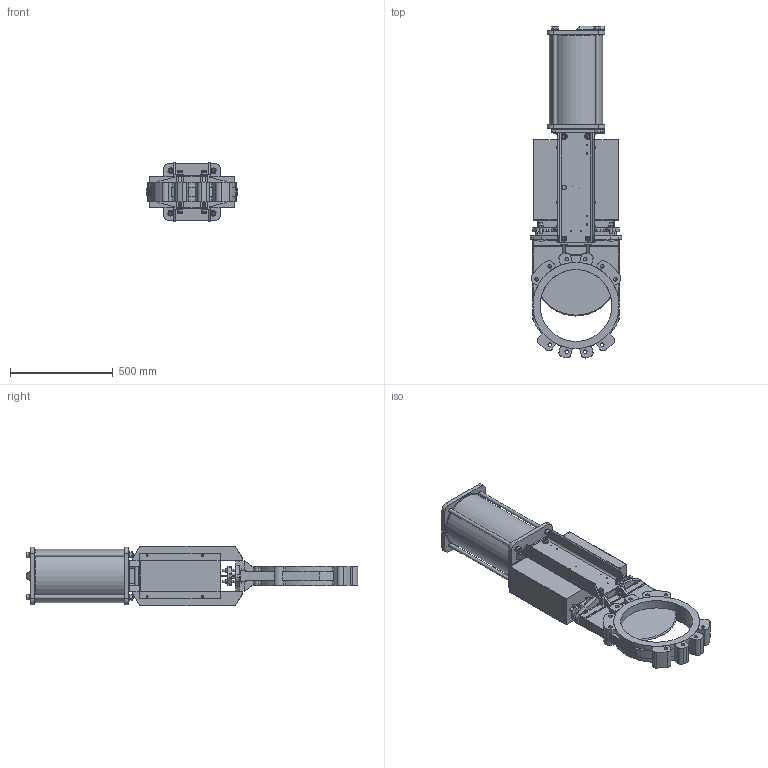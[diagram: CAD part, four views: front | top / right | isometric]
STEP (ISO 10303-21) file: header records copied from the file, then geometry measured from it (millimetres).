
FILE_DESCRIPTION(/* description */ (''),/* implementation_level */ '2;1');
FILE_NAME(/* name */ 'KG01-KG02 DA DN350.step',/* time_stamp */ '2023-06-26T11:40:37+02:00',/* author */ (''),/* organization */ (''),/* preprocessor_version */ 'ST-DEVELOPER v19.2',/* originating_system */ 'Autodesk Translation Framework v12.6.0.85',/* authorisation */ '');
FILE_SCHEMA (('AUTOMOTIVE_DESIGN { 1 0 10303 214 3 1 1 }'));
Length unit declared in the file: millimetre
Products named in the file (1): KG01-KG02 DA DN350
Bounding box: 445 x 1617.8 x 290 mm (x, y, z)
Volume: 67730044.3 mm3; surface area: 2709156.1 mm2
Topology: 21 solids, 21 shells, 1662 faces, 4234 edges, 2662 vertices
Faces by surface type: plane 779, cylinder 466, cone 311, bspline 62, torus 40, sphere 4
Full cylindrical faces by diameter (mm): 3.5 x4, 4.2 x12, 5 x8, 6 x4, 6.5 x8, 8.5 x8, 10.2 x8, 12 x24, 13 x8, 14 x4, 16 x8, 17 x2, 17.5 x20, 18 x20, 18.2 x8, 20 x9, 24 x14, 27.2 x8, 30 x2, 262 x1, 273 x2, 350 x1, 420 x2
Entity records: 51633 total; most frequent: CARTESIAN_POINT 12154, ORIENTED_EDGE 8368, DIRECTION 8299, EDGE_CURVE 4184, AXIS2_PLACEMENT_3D 3175, VERTEX_POINT 2662, LINE 1949, VECTOR 1949
